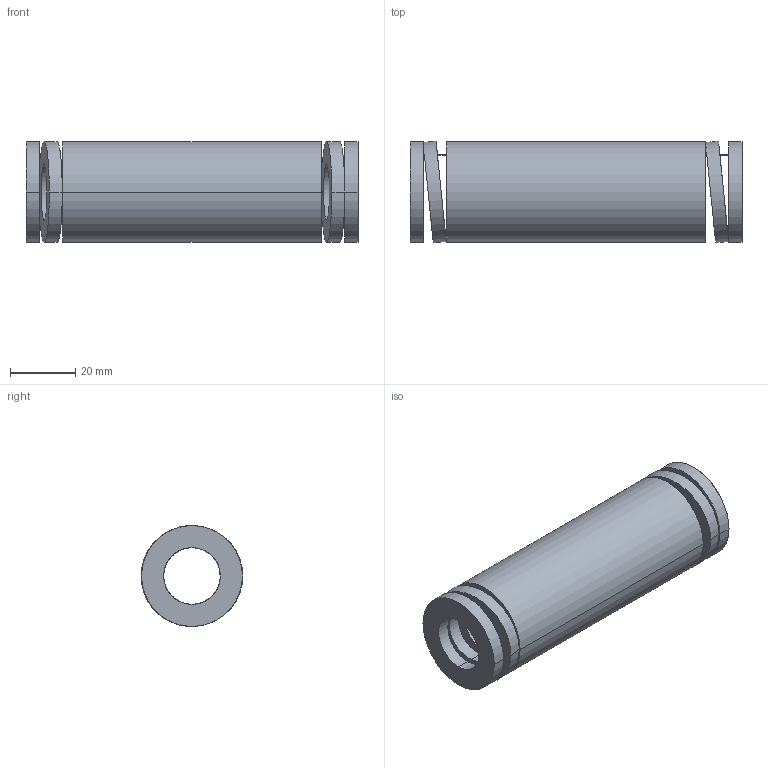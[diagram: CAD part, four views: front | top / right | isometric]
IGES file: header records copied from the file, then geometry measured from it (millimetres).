
Start section: START RECORD GO HERE.
Global section: file name: 392-B32-102.igs; native system: DASSAULT SYSTEMES CATIA V5 R20 - www.3ds.com; preprocessor: CATIA Version 5 Release 20 ; author: Utente; organization: NB04-ASUS; date: 20210813.105700; units: millimetre
Bounding box: 102 x 31.25 x 31 mm (x, y, z)
Surface area: 19697.9 mm2 (no closed solid volume)
Topology: 0 solids, 0 shells, 38 faces, 184 edges, 184 vertices
Faces by surface type: revolution 28, plane 10
